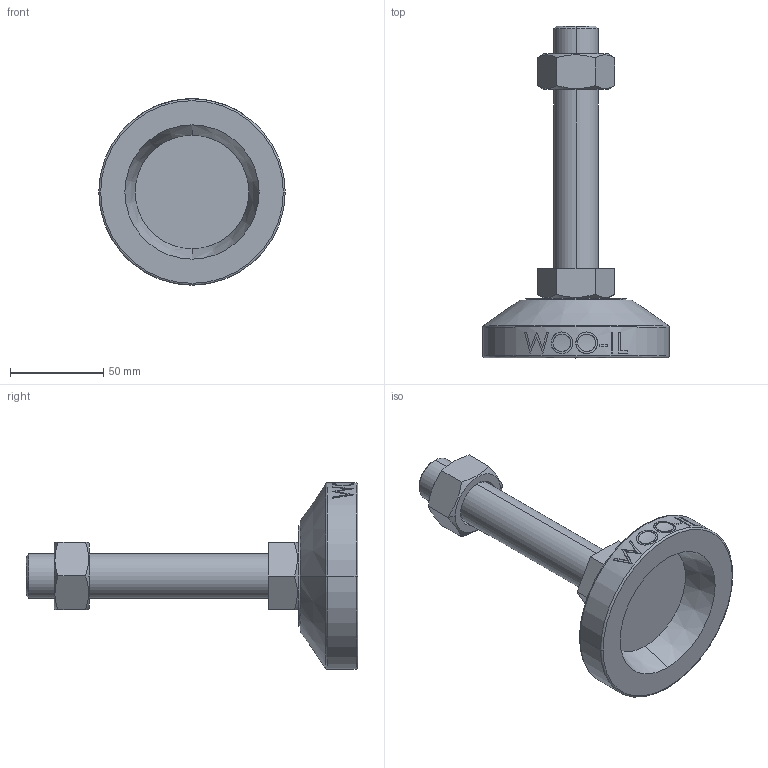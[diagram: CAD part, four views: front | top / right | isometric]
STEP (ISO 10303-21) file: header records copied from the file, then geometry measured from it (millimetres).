
FILE_DESCRIPTION (( 'STEP AP214' ), '1' );
FILE_NAME ('PAD-B100-M24-130.step', '2021-01-26T23:42:33', ( '' ), ( '' ), 'SwSTEP 2.0', 'SolidWorks 2019', '' );
FILE_SCHEMA (( 'AUTOMOTIVE_DESIGN' ));
Length unit declared in the file: millimetre
Products named in the file (2): PAD-B100-M24-130
Bounding box: 100 x 178 x 100 mm (x, y, z)
Volume: 237366.8 mm3; surface area: 43558.9 mm2
Topology: 3 solids, 3 shells, 100 faces, 231 edges, 148 vertices
Faces by surface type: plane 48, cylinder 16, cone 16, bspline 16, torus 4
Entity records: 4544 total; most frequent: CARTESIAN_POINT 2333, ORIENTED_EDGE 462, DIRECTION 403, EDGE_CURVE 231, AXIS2_PLACEMENT_3D 152, VERTEX_POINT 148, EDGE_LOOP 113, FACE_OUTER_BOUND 100
